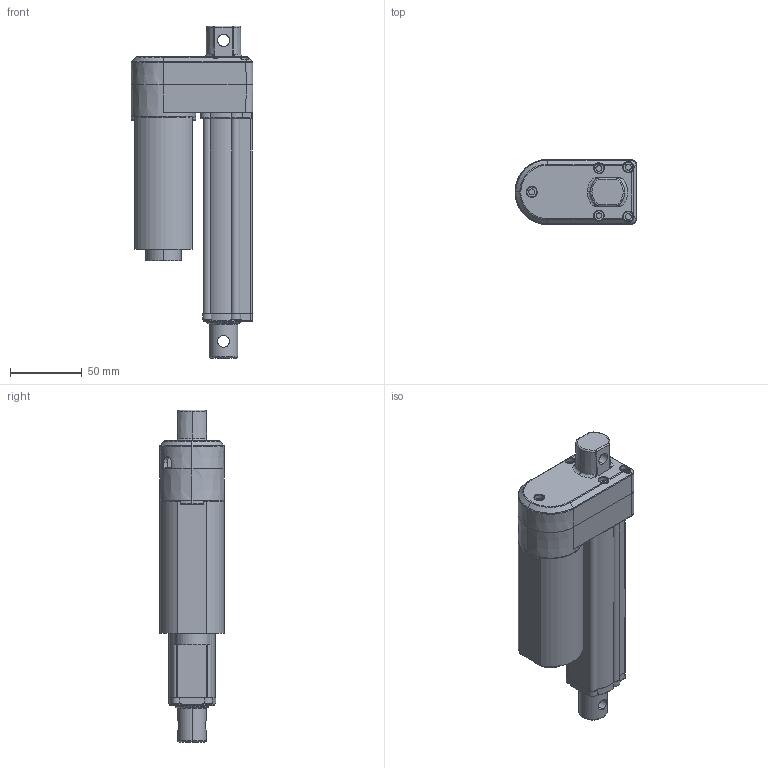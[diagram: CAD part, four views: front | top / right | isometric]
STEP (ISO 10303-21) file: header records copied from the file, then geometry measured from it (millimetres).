
FILE_DESCRIPTION (( 'STEP AP203' ), '1' );
FILE_NAME ('100ÐÐ³Ì.STEP', '2021-08-21T03:04:27', ( 'Microsoft' ), ( 'MS' ), 'SwSTEP 2.0', 'SolidWorks 2018', '' );
FILE_SCHEMA (( 'CONFIG_CONTROL_DESIGN' ));
Length unit declared in the file: millimetre
Products named in the file (7): 100俴最; 萇儂釱ㄗ狟ㄘ裂嫉; 諾陑臏奪籵謂; 萇儂; 萇儂釱ㄗ奻ㄘ; 芢裝猾裔; 祑倰臏奪
Assembly tree (6 placements, depth 2):
  100俴最
    萇儂釱ㄗ狟ㄘ裂嫉
    諾陑臏奪籵謂
    萇儂
    萇儂釱ㄗ奻ㄘ
    芢裝猾裔
    祑倰臏奪
Bounding box: 85 x 45.4 x 231.6 mm (x, y, z)
Volume: 244684.3 mm3; surface area: 107513.4 mm2
Topology: 6 solids, 6 shells, 594 faces, 1507 edges, 935 vertices
Faces by surface type: cylinder 221, plane 142, bspline 120, torus 49, cone 48, sphere 14
Entity records: 24823 total; most frequent: CARTESIAN_POINT 10640, ORIENTED_EDGE 2978, DIRECTION 2649, EDGE_CURVE 1489, AXIS2_PLACEMENT_3D 1084, VERTEX_POINT 930, EDGE_LOOP 665, CIRCLE 601
